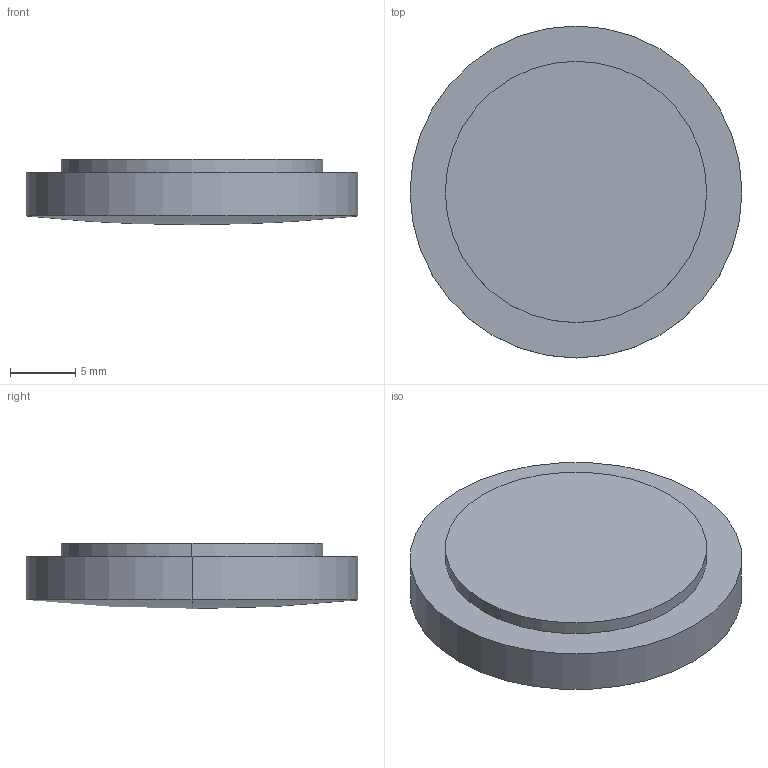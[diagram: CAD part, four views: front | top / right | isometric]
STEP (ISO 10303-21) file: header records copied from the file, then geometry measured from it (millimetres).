
FILE_DESCRIPTION(('STEP AP214'),'1');
FILE_NAME('LLF-25300.STEP','2020-03-09T17:41:26',(' '),(' '),'Spatial InterOp 3D',' ',' ');
FILE_SCHEMA(('AUTOMOTIVE_DESIGN { 1 0 10303 214 1 1 1 1 }'));
Length unit declared in the file: millimetre
Products named in the file (1): 1
Bounding box: 25.4 x 25.4 x 5 mm (x, y, z)
Volume: 2172 mm3; surface area: 1971.9 mm2
Topology: 2 solids, 2 shells, 9 faces, 16 edges, 9 vertices
Faces by surface type: cylinder 4, plane 3, sphere 2
Entity records: 229 total; most frequent: DIRECTION 46, CARTESIAN_POINT 34, ORIENTED_EDGE 28, AXIS2_PLACEMENT_3D 21, EDGE_CURVE 14, CIRCLE 10, ADVANCED_FACE 9, FACE_OUTER_BOUND 9
